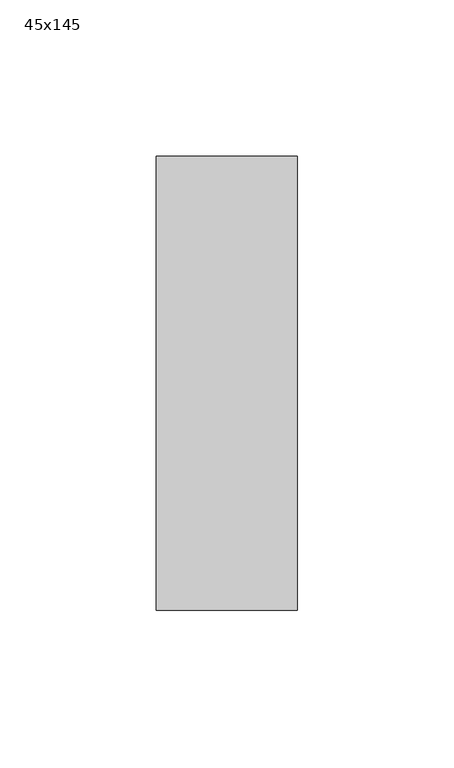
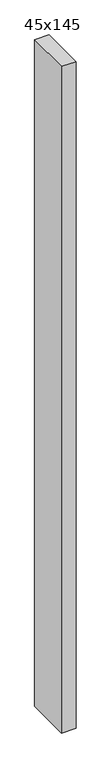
"""IFC4 building model written with IfcOpenShell, lengths in millimetres: column geometry, C&L poteau bois : 45x145."""

from ifc_helpers import new_model, si_unit, frame, origin, place, context, project, spatial, polyline, outline, extrude, source, transform, mapped, element, save


def column_45x145_172a3349(model_context):
    return source(origin(), model_context, "Body", "SweptSolid", [
        extrude(outline(polyline([(22.5, -72.5), (-22.5, -72.5), (-22.5, 72.5), (22.5, 72.5), (22.5, -72.5)])), frame((0.0, 0.0, 5990.0), z_axis=(0.0, 0.0, 1.0), x_axis=(1.0, 0.0, 0.0)), (0.0, 0.0, 1.0), 2200.0),
    ])


if __name__ == "__main__":
    model = new_model("IFC4")
    model_context = context("Model", 3, world=origin())
    ifc_project = project(units=[si_unit("LENGTHUNIT", "METRE", prefix="MILLI")], contexts=[model_context])
    site = spatial("IfcSite", under=ifc_project)
    building = spatial("IfcBuilding", under=site)
    placement = place(None, origin())
    column_45x145_shape = column_45x145_172a3349(model_context)
    element("IfcColumn", 1, ObjectType="C&L poteau bois : 45x145", at=placement, inside=building, context=model_context, shape_type="MappedRepresentation", body=[
        mapped(column_45x145_shape, transform((0.0, 0.0, 0.0), x_axis=(1.0, 0.0, 0.0), y_axis=(0.0, 1.0, 0.0), z_axis=(0.0, 0.0, 1.0))),
    ])
    save(model, "model.ifc")
